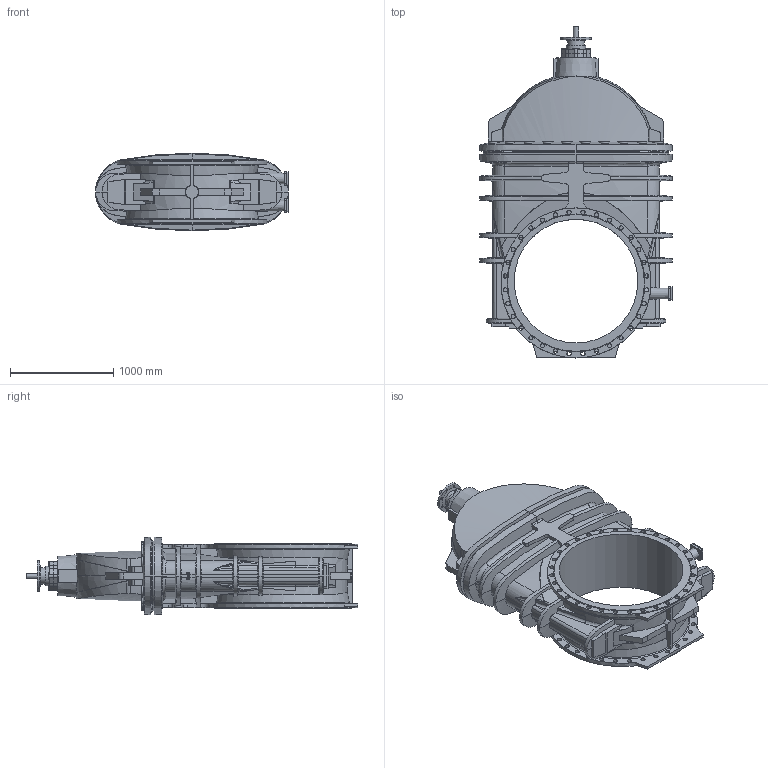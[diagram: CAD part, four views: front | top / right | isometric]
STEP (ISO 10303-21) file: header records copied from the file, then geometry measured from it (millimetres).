
FILE_DESCRIPTION (( 'STEP AP203' ), '1' );
FILE_NAME ('O_06_30_DN1200_X90XXXXX_REV03.step', '2024-02-28T07:31:42', ( '' ), ( '' ), 'SwSTEP 2.0', 'SolidWorks 2022', '' );
FILE_SCHEMA (( 'CONFIG_CONTROL_DESIGN' ));
Length unit declared in the file: millimetre
Products named in the file (1): O_06_30_DN1200_X90XXXXX_REV03
Bounding box: 1872.55 x 3220.6 x 752.55 mm (x, y, z)
Volume: 1221632861.6 mm3; surface area: 17729703.5 mm2
Topology: 1 solids, 1 shells, 871 faces, 2471 edges, 1611 vertices
Faces by surface type: plane 398, cylinder 254, bspline 190, cone 17, torus 8, sphere 4
Full cylindrical faces by diameter (mm): 20 x8, 41 x64, 50 x1, 159.5 x1, 190 x1, 300 x1, 1200 x1, 1455 x2
Entity records: 62089 total; most frequent: CARTESIAN_POINT 42454, ORIENTED_EDGE 4674, DIRECTION 2981, EDGE_CURVE 2337, VERTEX_POINT 1569, AXIS2_PLACEMENT_3D 1117, EDGE_LOOP 1114, B_SPLINE_CURVE_WITH_KNOTS 1043
